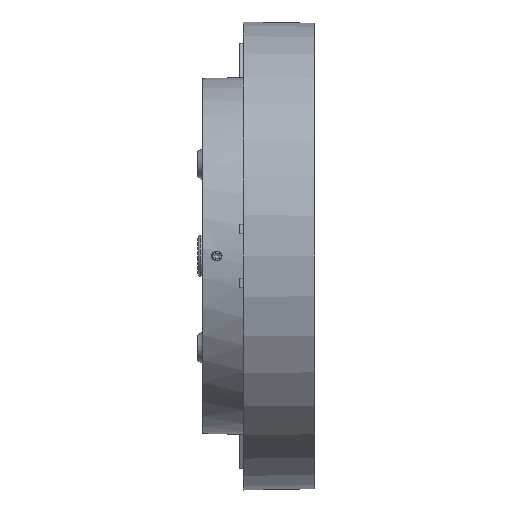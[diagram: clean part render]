
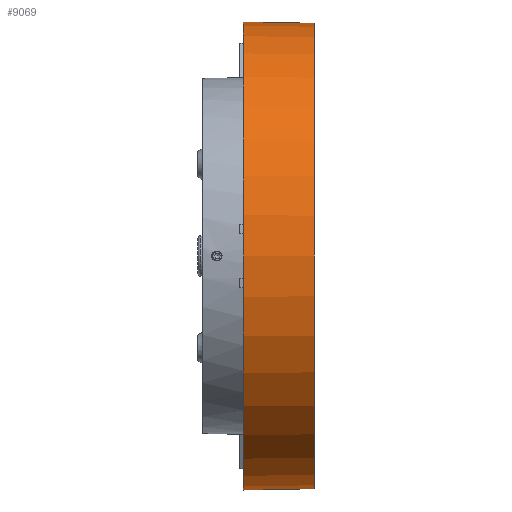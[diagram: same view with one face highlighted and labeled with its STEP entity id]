
A CAD part, front view. The second image highlights one B-rep face of the part: STEP entity #9069.
In plain terms, the highlighted conical face has half-angle 1 degrees and reference radius 125.302 mm.
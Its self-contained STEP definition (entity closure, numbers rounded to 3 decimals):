
#927 = CIRCLE ( 'NONE', #3227, 125.328 ) ;
#1238 = DIRECTION ( 'NONE',  ( -1., 0., 0. ) ) ;
#1388 = ORIENTED_EDGE ( 'NONE', *, *, #11624, .T. ) ;
#1508 = DIRECTION ( 'NONE',  ( 0., 0., -1. ) ) ;
#1971 = EDGE_CURVE ( 'NONE', #2337, #2337, #10742, .T. ) ;
#2262 = DIRECTION ( 'NONE',  ( -1., 0., 0. ) ) ;
#2290 = DIRECTION ( 'NONE',  ( -1., 0., 0. ) ) ;
#2337 = VERTEX_POINT ( 'NONE', #6483 ) ;
#3155 = AXIS2_PLACEMENT_3D ( 'NONE', #17277, #2262, #9250 ) ;
#3227 = AXIS2_PLACEMENT_3D ( 'NONE', #4831, #2290, #10180 ) ;
#3774 = FACE_BOUND ( 'NONE', #5111, .T. ) ;
#4831 = CARTESIAN_POINT ( 'NONE',  ( 30.009, 287.75, -13.25 ) ) ;
#4885 = CONICAL_SURFACE ( 'NONE', #3155, 125.302, 0.017 ) ;
#5065 = FACE_OUTER_BOUND ( 'NONE', #8739, .T. ) ;
#5111 = EDGE_LOOP ( 'NONE', ( #1388 ) ) ;
#6461 = CARTESIAN_POINT ( 'NONE',  ( 30.009, 287.75, -138.578 ) ) ;
#6483 = CARTESIAN_POINT ( 'NONE',  ( -8., 287.75, -139.241 ) ) ;
#8739 = EDGE_LOOP ( 'NONE', ( #15056 ) ) ;
#9069 = ADVANCED_FACE ( 'NONE', ( #5065, #3774 ), #4885, .T. ) ;
#9250 = DIRECTION ( 'NONE',  ( 0., 0., -1. ) ) ;
#9609 = AXIS2_PLACEMENT_3D ( 'NONE', #12553, #1238, #1508 ) ;
#10180 = DIRECTION ( 'NONE',  ( 0., 0., -1. ) ) ;
#10742 = CIRCLE ( 'NONE', #9609, 125.991 ) ;
#11624 = EDGE_CURVE ( 'NONE', #12096, #12096, #927, .T. ) ;
#12096 = VERTEX_POINT ( 'NONE', #6461 ) ;
#12553 = CARTESIAN_POINT ( 'NONE',  ( -8., 287.75, -13.25 ) ) ;
#15056 = ORIENTED_EDGE ( 'NONE', *, *, #1971, .F. ) ;
#17277 = CARTESIAN_POINT ( 'NONE',  ( 31.517, 287.75, -13.25 ) ) ;
